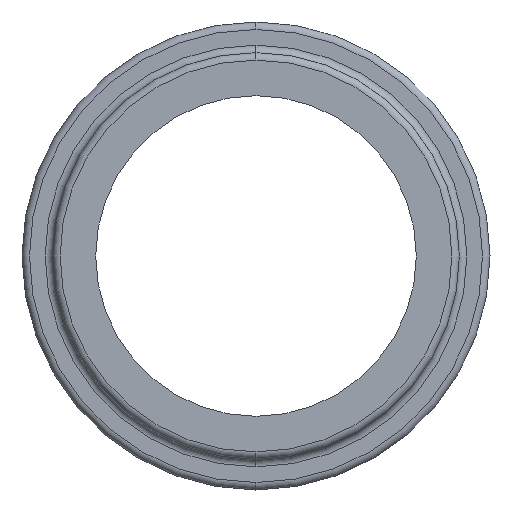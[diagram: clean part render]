
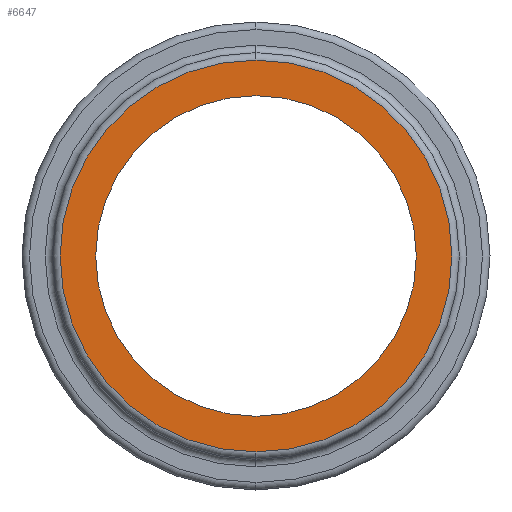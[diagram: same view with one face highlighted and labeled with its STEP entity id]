
A CAD part, left-side view. The second image highlights one B-rep face of the part: STEP entity #6647.
In plain terms, the highlighted planar face has unit normal (-1, 0, 0).
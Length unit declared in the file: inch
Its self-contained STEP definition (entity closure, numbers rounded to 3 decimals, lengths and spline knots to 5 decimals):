
#237 = VERTEX_POINT ( 'NONE', #4473 ) ;
#290 = VERTEX_POINT ( 'NONE', #2967 ) ;
#454 = CIRCLE ( 'NONE', #5173, 0.837 ) ;
#696 = ORIENTED_EDGE ( 'NONE', *, *, #3656, .T. ) ;
#882 = DIRECTION ( 'NONE',  ( 0., 0., -1. ) ) ;
#996 = CIRCLE ( 'NONE', #2210, 0.685 ) ;
#1127 = AXIS2_PLACEMENT_3D ( 'NONE', #3276, #6602, #882 ) ;
#1239 = DIRECTION ( 'NONE',  ( 1., 0., 0. ) ) ;
#1283 = DIRECTION ( 'NONE',  ( 0., 0., -1. ) ) ;
#1459 = DIRECTION ( 'NONE',  ( -1., 0., 0. ) ) ;
#1711 = EDGE_CURVE ( 'NONE', #3240, #237, #996, .T. ) ;
#1787 = CARTESIAN_POINT ( 'NONE',  ( -0.91542, 0., 0. ) ) ;
#1862 = VERTEX_POINT ( 'NONE', #3454 ) ;
#2049 = ORIENTED_EDGE ( 'NONE', *, *, #4035, .F. ) ;
#2210 = AXIS2_PLACEMENT_3D ( 'NONE', #2360, #7618, #4936 ) ;
#2360 = CARTESIAN_POINT ( 'NONE',  ( -0.91542, 0., 0. ) ) ;
#2489 = EDGE_LOOP ( 'NONE', ( #2049, #5520 ) ) ;
#2750 = CIRCLE ( 'NONE', #1127, 0.685 ) ;
#2967 = CARTESIAN_POINT ( 'NONE',  ( -0.91542, 0., -0.837 ) ) ;
#3005 = CARTESIAN_POINT ( 'NONE',  ( -0.91542, 0., 0. ) ) ;
#3227 = EDGE_LOOP ( 'NONE', ( #696, #5686 ) ) ;
#3240 = VERTEX_POINT ( 'NONE', #7695 ) ;
#3276 = CARTESIAN_POINT ( 'NONE',  ( -0.91542, 0., 0. ) ) ;
#3454 = CARTESIAN_POINT ( 'NONE',  ( -0.91542, 0., 0.837 ) ) ;
#3656 = EDGE_CURVE ( 'NONE', #237, #3240, #2750, .T. ) ;
#3782 = AXIS2_PLACEMENT_3D ( 'NONE', #7137, #1459, #6583 ) ;
#3809 = DIRECTION ( 'NONE',  ( 1., 0., 0. ) ) ;
#3980 = PLANE ( 'NONE',  #3782 ) ;
#4035 = EDGE_CURVE ( 'NONE', #290, #1862, #454, .T. ) ;
#4138 = EDGE_CURVE ( 'NONE', #1862, #290, #6211, .T. ) ;
#4473 = CARTESIAN_POINT ( 'NONE',  ( -0.91542, 0., -0.685 ) ) ;
#4487 = FACE_BOUND ( 'NONE', #3227, .T. ) ;
#4936 = DIRECTION ( 'NONE',  ( 0., 0., -1. ) ) ;
#5173 = AXIS2_PLACEMENT_3D ( 'NONE', #1787, #1239, #5658 ) ;
#5520 = ORIENTED_EDGE ( 'NONE', *, *, #4138, .F. ) ;
#5658 = DIRECTION ( 'NONE',  ( 0., 0., -1. ) ) ;
#5686 = ORIENTED_EDGE ( 'NONE', *, *, #1711, .T. ) ;
#5824 = FACE_OUTER_BOUND ( 'NONE', #2489, .T. ) ;
#6211 = CIRCLE ( 'NONE', #6481, 0.837 ) ;
#6481 = AXIS2_PLACEMENT_3D ( 'NONE', #3005, #3809, #1283 ) ;
#6583 = DIRECTION ( 'NONE',  ( 0., 0., 1. ) ) ;
#6602 = DIRECTION ( 'NONE',  ( 1., 0., 0. ) ) ;
#6647 = ADVANCED_FACE ( 'NONE', ( #4487, #5824 ), #3980, .T. ) ;
#7137 = CARTESIAN_POINT ( 'NONE',  ( -0.91542, 0.685, 0. ) ) ;
#7618 = DIRECTION ( 'NONE',  ( 1., 0., 0. ) ) ;
#7695 = CARTESIAN_POINT ( 'NONE',  ( -0.91542, 0., 0.685 ) ) ;
